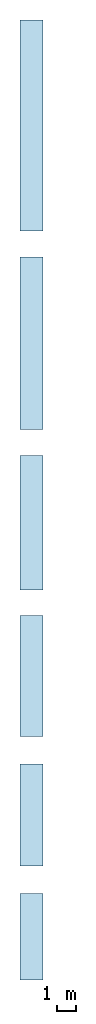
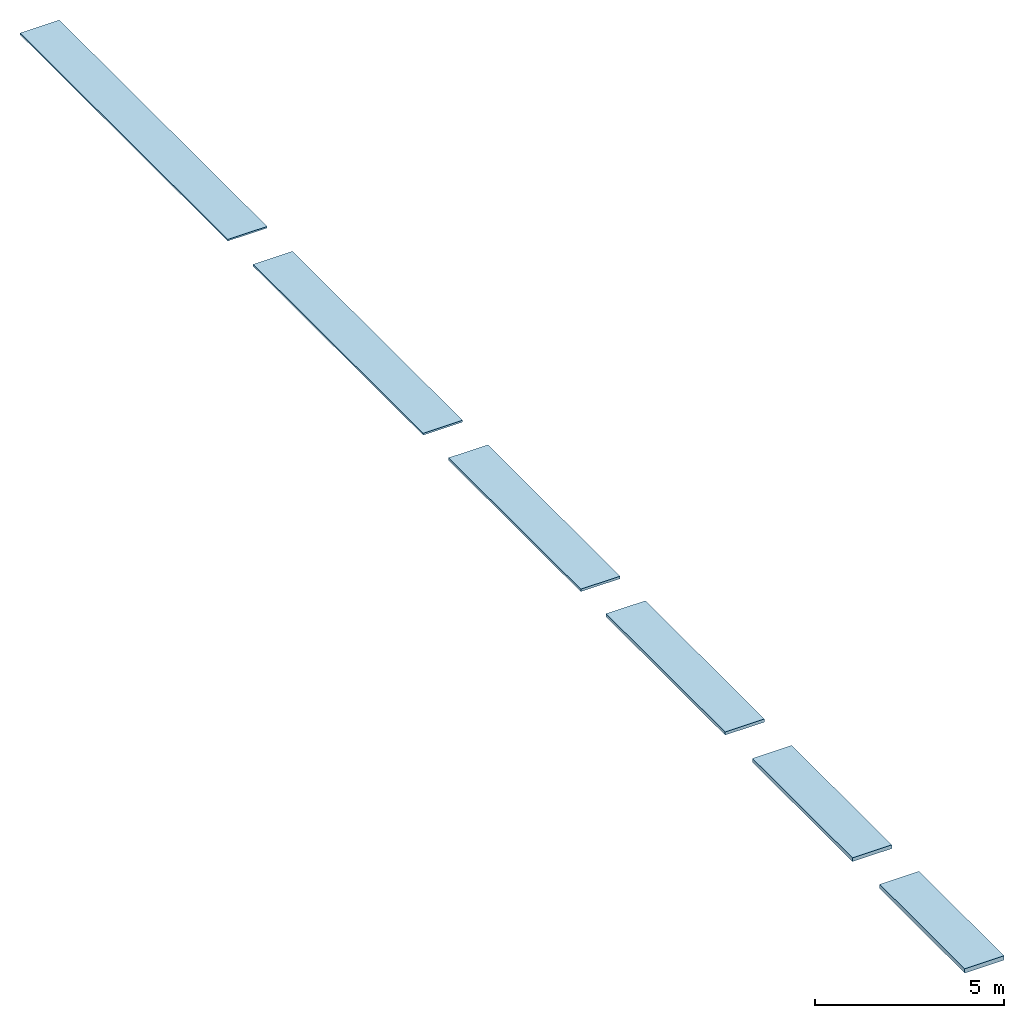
# One storey: 6 slabs, 6 elements without a shape of their own.
"""IFC2X3 building model written with IfcOpenShell, lengths in millimetres."""

from ifc_helpers import new_model, entity, si_unit, converted_unit, derived_unit, direction, frame, frame_2d, origin, place, context, subcontext, project, spatial, rectangle, extrude, material, layer, layer_set, element, aggregate, save


model = new_model("IFC2X3")

# Units and contexts
model_context = context("Model", 3, precision=0.01, world=origin(), true_north=direction((6.12303176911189e-17, 1.0)))
body_context = subcontext(model_context, "Body", "Model", "MODEL_VIEW")
ifc_project = project(units=[si_unit("LENGTHUNIT", "METRE", prefix="MILLI"), si_unit("AREAUNIT", "SQUARE_METRE"), si_unit("VOLUMEUNIT", "CUBIC_METRE"), converted_unit("PLANEANGLEUNIT", "DEGREE", entity("IfcRatioMeasure", 0.0174532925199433), si_unit("PLANEANGLEUNIT", "RADIAN"), dimensions=[0, 0, 0, 0, 0, 0, 0]), si_unit("MASSUNIT", "GRAM", prefix="KILO"), si_unit("TIMEUNIT", "SECOND"), si_unit("FREQUENCYUNIT", "HERTZ"), si_unit("THERMODYNAMICTEMPERATUREUNIT", "DEGREE_CELSIUS"), derived_unit("THERMALTRANSMITTANCEUNIT", [(si_unit("MASSUNIT", "GRAM", prefix="KILO"), 1), (si_unit("THERMODYNAMICTEMPERATUREUNIT", "KELVIN"), -1), (si_unit("TIMEUNIT", "SECOND"), -3)]), derived_unit("VOLUMETRICFLOWRATEUNIT", [(si_unit("LENGTHUNIT", "METRE"), 3), (si_unit("TIMEUNIT", "SECOND"), -1)]), si_unit("ELECTRICCURRENTUNIT", "AMPERE"), si_unit("ELECTRICVOLTAGEUNIT", "VOLT"), si_unit("POWERUNIT", "WATT"), si_unit("FORCEUNIT", "NEWTON", prefix="KILO"), si_unit("ILLUMINANCEUNIT", "LUX"), si_unit("LUMINOUSFLUXUNIT", "LUMEN"), si_unit("LUMINOUSINTENSITYUNIT", "CANDELA"), derived_unit("USERDEFINED", [(si_unit("MASSUNIT", "GRAM", prefix="KILO"), -1), (si_unit("LENGTHUNIT", "METRE"), -2), (si_unit("TIMEUNIT", "SECOND"), 3), (si_unit("LUMINOUSFLUXUNIT", "LUMEN"), 1)]), derived_unit("LINEARVELOCITYUNIT", [(si_unit("LENGTHUNIT", "METRE"), 1), (si_unit("TIMEUNIT", "SECOND"), -1)]), si_unit("PRESSUREUNIT", "PASCAL"), derived_unit("USERDEFINED", [(si_unit("LENGTHUNIT", "METRE"), -2), (si_unit("MASSUNIT", "GRAM", prefix="KILO"), 1), (si_unit("TIMEUNIT", "SECOND"), -2)])], contexts=[model_context])

# Site, building, storey
site_placement = place(None, origin())
site = spatial("IfcSite", under=ifc_project, at=site_placement, Name="Default", CompositionType="ELEMENT")
building_placement = place(site_placement, origin())
building = spatial("IfcBuilding", under=site, at=building_placement, CompositionType="ELEMENT")
storey_placement = place(building_placement, origin())
storey = spatial("IfcBuildingStorey", under=building, at=storey_placement, Name="Референтни ниво", CompositionType="ELEMENT", Elevation=0.0)

# Roof, slab
roof_1_placement = place(storey_placement, frame((-225400.0, 172272.205473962, 0.0)))
roof_1 = element("IfcRoof", 1, at=roof_1_placement, inside=storey, Name="Basic Roof:Knauf Insulation - Unifit 035 - 50 mm - 50 x 11000 x 1200 mm", ObjectType="Basic Roof:Knauf Insulation - Unifit 035 - 50 mm - 50 x 11000 x 1200 mm", ShapeType="NOTDEFINED")
ifc_material_1 = material(Name="Knauf Insulation - Unifit 035 - 50 mm - 50 x 11000 x 1200 mm")
ifc_layer_1 = layer(ifc_material_1, 50.0)
ifc_layer_set_1 = layer_set([ifc_layer_1], Name="Basic Roof:Knauf Insulation - Unifit 035 - 50 mm - 50 x 11000 x 1200 mm")
slab_1_placement = place(roof_1_placement, origin())
slab_1 = element("IfcSlab", 2, at=slab_1_placement, material=ifc_layer_set_1, Name="Basic Roof:Knauf Insulation - Unifit 035 - 50 mm - 50 x 11000 x 1200 mm", ObjectType="Basic Roof:Knauf Insulation - Unifit 035 - 50 mm - 50 x 11000 x 1200 mm", PredefinedType="ROOF", context=body_context, shape_type="SweptSolid", body=[
    extrude(rectangle(XDim=1199.99999999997, YDim=11000.0, at=frame_2d((1.72803993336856e-11, 0.0), x_axis=(1.0, 0.0))), frame((600.0, 5500.0, 0.0)), (0.0, 0.0, 1.0), 50.0),
])
aggregate(roof_1, [slab_1])

roof_2_placement = place(storey_placement, frame((-225400.0, 161932.205473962, 0.0)))
roof_2 = element("IfcRoof", 3, at=roof_2_placement, inside=storey, Name="Basic Roof:Knauf Insulation - Unifit 035 - 60 mm - 60 x 9000 x 1200 mm", ObjectType="Basic Roof:Knauf Insulation - Unifit 035 - 60 mm - 60 x 9000 x 1200 mm", ShapeType="NOTDEFINED")
ifc_material_2 = material(Name="Knauf Insulation - Unifit 035 - 60 mm - 60 x 9000 x 1200 mm")
ifc_layer_2 = layer(ifc_material_2, 60.0)
ifc_layer_set_2 = layer_set([ifc_layer_2], Name="Basic Roof:Knauf Insulation - Unifit 035 - 60 mm - 60 x 9000 x 1200 mm")
slab_2_placement = place(roof_2_placement, origin())
slab_2 = element("IfcSlab", 4, at=slab_2_placement, material=ifc_layer_set_2, Name="Basic Roof:Knauf Insulation - Unifit 035 - 60 mm - 60 x 9000 x 1200 mm", ObjectType="Basic Roof:Knauf Insulation - Unifit 035 - 60 mm - 60 x 9000 x 1200 mm", PredefinedType="ROOF", context=body_context, shape_type="SweptSolid", body=[
    extrude(rectangle(XDim=1199.99999999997, YDim=9000.0, at=frame_2d((-1.72803993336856e-11, -1.72803993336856e-11), x_axis=(1.0, 0.0))), frame((600.0, 4500.0, 0.0)), (0.0, 0.0, 1.0), 60.0),
])
aggregate(roof_2, [slab_2])

roof_3_placement = place(storey_placement, frame((-225400.0, 153592.205473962, 0.0)))
roof_3 = element("IfcRoof", 5, at=roof_3_placement, inside=storey, Name="Basic Roof:Knauf Insulation - Unifit 035 - 80 mm - 80 x 7000 x 1200 mm", ObjectType="Basic Roof:Knauf Insulation - Unifit 035 - 80 mm - 80 x 7000 x 1200 mm", ShapeType="NOTDEFINED")
ifc_material_3 = material(Name="Knauf Insulation - Unifit 035 - 80 mm - 80 x 7000 x 1200 mm")
ifc_layer_3 = layer(ifc_material_3, 80.0)
ifc_layer_set_3 = layer_set([ifc_layer_3], Name="Basic Roof:Knauf Insulation - Unifit 035 - 80 mm - 80 x 7000 x 1200 mm")
slab_3_placement = place(roof_3_placement, origin())
slab_3 = element("IfcSlab", 6, at=slab_3_placement, material=ifc_layer_set_3, Name="Basic Roof:Knauf Insulation - Unifit 035 - 80 mm - 80 x 7000 x 1200 mm", ObjectType="Basic Roof:Knauf Insulation - Unifit 035 - 80 mm - 80 x 7000 x 1200 mm", PredefinedType="ROOF", context=body_context, shape_type="SweptSolid", body=[
    extrude(rectangle(XDim=1199.99999999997, YDim=7000.0, at=frame_2d((-1.72803993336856e-11, 0.0), x_axis=(1.0, 0.0))), frame((600.0, 3500.0, 0.0)), (0.0, 0.0, 1.0), 80.0),
])
aggregate(roof_3, [slab_3])

roof_4_placement = place(storey_placement, frame((-225400.0, 145952.205473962, 0.0)))
roof_4 = element("IfcRoof", 7, at=roof_4_placement, inside=storey, Name="Basic Roof:Knauf Insulation - Unifit 035 - 100 mm - 100 x 6300 x 1200 mm", ObjectType="Basic Roof:Knauf Insulation - Unifit 035 - 100 mm - 100 x 6300 x 1200 mm", ShapeType="NOTDEFINED")
ifc_material_4 = material(Name="Knauf Insulation - Unifit 035 - 100 mm - 100 x 6300 x 1200 mm")
ifc_layer_4 = layer(ifc_material_4, 100.0)
ifc_layer_set_4 = layer_set([ifc_layer_4], Name="Basic Roof:Knauf Insulation - Unifit 035 - 100 mm - 100 x 6300 x 1200 mm")
slab_4_placement = place(roof_4_placement, origin())
slab_4 = element("IfcSlab", 8, at=slab_4_placement, material=ifc_layer_set_4, Name="Basic Roof:Knauf Insulation - Unifit 035 - 100 mm - 100 x 6300 x 1200 mm", ObjectType="Basic Roof:Knauf Insulation - Unifit 035 - 100 mm - 100 x 6300 x 1200 mm", PredefinedType="ROOF", context=body_context, shape_type="SweptSolid", body=[
    extrude(rectangle(XDim=1199.99999999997, YDim=6299.99999999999, at=frame_2d((-1.72803993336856e-11, 0.0), x_axis=(1.0, 0.0))), frame((600.0, 3150.0, 0.0)), (0.0, 0.0, 1.0), 100.0),
])
aggregate(roof_4, [slab_4])

roof_5_placement = place(storey_placement, frame((-225400.0, 139212.205473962, 0.0)))
roof_5 = element("IfcRoof", 9, at=roof_5_placement, inside=storey, Name="Basic Roof:Knauf Insulation - Unifit 035 - 120 mm - 120 x 5300 x 1200 mm", ObjectType="Basic Roof:Knauf Insulation - Unifit 035 - 120 mm - 120 x 5300 x 1200 mm", ShapeType="NOTDEFINED")
ifc_material_5 = material(Name="Knauf Insulation - Unifit 035 - 120 mm - 120 x 5300 x 1200 mm")
ifc_layer_5 = layer(ifc_material_5, 120.0)
ifc_layer_set_5 = layer_set([ifc_layer_5], Name="Basic Roof:Knauf Insulation - Unifit 035 - 120 mm - 120 x 5300 x 1200 mm")
slab_5_placement = place(roof_5_placement, origin())
slab_5 = element("IfcSlab", 10, at=slab_5_placement, material=ifc_layer_set_5, Name="Basic Roof:Knauf Insulation - Unifit 035 - 120 mm - 120 x 5300 x 1200 mm", ObjectType="Basic Roof:Knauf Insulation - Unifit 035 - 120 mm - 120 x 5300 x 1200 mm", PredefinedType="ROOF", context=body_context, shape_type="SweptSolid", body=[
    extrude(rectangle(XDim=1199.99999999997, YDim=5299.99999999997, at=frame_2d((-1.72803993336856e-11, 8.64019966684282e-12), x_axis=(1.0, 0.0))), frame((600.0, 2650.0, 0.0)), (0.0, 0.0, 1.0), 120.0),
])
aggregate(roof_5, [slab_5])

roof_6_placement = place(storey_placement, frame((-225400.0, 133272.205473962, 0.0)))
roof_6 = element("IfcRoof", 11, at=roof_6_placement, inside=storey, Name="Basic Roof:Knauf Insulation - Unifit 035 - 140 mm - 140 x 4500 x 1200 mm", ObjectType="Basic Roof:Knauf Insulation - Unifit 035 - 140 mm - 140 x 4500 x 1200 mm", ShapeType="NOTDEFINED")
ifc_material_6 = material(Name="Knauf Insulation - Unifit 035 - 140 mm - 140 x 4500 x 1200 mm")
ifc_layer_6 = layer(ifc_material_6, 140.0)
ifc_layer_set_6 = layer_set([ifc_layer_6], Name="Basic Roof:Knauf Insulation - Unifit 035 - 140 mm - 140 x 4500 x 1200 mm")
slab_6_placement = place(roof_6_placement, origin())
slab_6 = element("IfcSlab", 12, at=slab_6_placement, material=ifc_layer_set_6, Name="Basic Roof:Knauf Insulation - Unifit 035 - 140 mm - 140 x 4500 x 1200 mm", ObjectType="Basic Roof:Knauf Insulation - Unifit 035 - 140 mm - 140 x 4500 x 1200 mm", PredefinedType="ROOF", context=body_context, shape_type="SweptSolid", body=[
    extrude(rectangle(XDim=1199.99999999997, YDim=4500.00000000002, at=frame_2d((-1.72803993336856e-11, 0.0), x_axis=(1.0, 0.0))), frame((600.0, 2250.0, 0.0)), (0.0, 0.0, 1.0), 140.0),
])
aggregate(roof_6, [slab_6])

save(model, "model.ifc")
